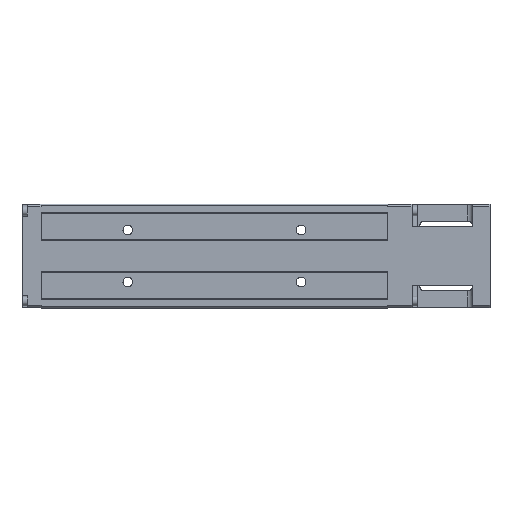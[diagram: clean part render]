
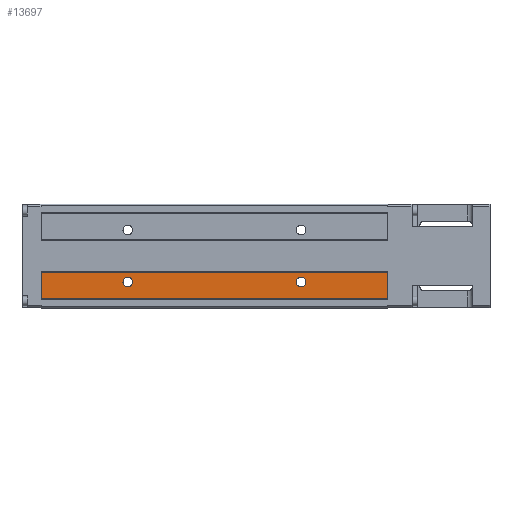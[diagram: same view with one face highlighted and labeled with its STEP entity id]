
A CAD part, front view. The second image highlights one B-rep face of the part: STEP entity #13697.
In plain terms, the highlighted planar face has unit normal (0, -1, 0).
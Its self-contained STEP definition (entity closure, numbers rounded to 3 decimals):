
#86 = ORIENTED_EDGE ( 'NONE', *, *, #14830, .T. ) ;
#798 = CARTESIAN_POINT ( 'NONE',  ( -150., -23., -12.25 ) ) ;
#942 = CIRCLE ( 'NONE', #1834, 2.75 ) ;
#1168 = LINE ( 'NONE', #12197, #15346 ) ;
#1222 = CARTESIAN_POINT ( 'NONE',  ( -100., -23., -12.25 ) ) ;
#1275 = EDGE_CURVE ( 'NONE', #6162, #5347, #1910, .T. ) ;
#1570 = LINE ( 'NONE', #11780, #13632 ) ;
#1647 = CIRCLE ( 'NONE', #9141, 2.75 ) ;
#1762 = ORIENTED_EDGE ( 'NONE', *, *, #6735, .T. ) ;
#1834 = AXIS2_PLACEMENT_3D ( 'NONE', #3439, #12041, #12154 ) ;
#1910 = LINE ( 'NONE', #798, #10873 ) ;
#1989 = CARTESIAN_POINT ( 'NONE',  ( -100., -23., -15. ) ) ;
#2052 = DIRECTION ( 'NONE',  ( -1., 0., 0. ) ) ;
#2138 = DIRECTION ( 'NONE',  ( 0., 1., 0. ) ) ;
#2589 = CARTESIAN_POINT ( 'NONE',  ( -100., -23., -9.5 ) ) ;
#2612 = DIRECTION ( 'NONE',  ( 0., 0., 1. ) ) ;
#2742 = CARTESIAN_POINT ( 'NONE',  ( 0., -23., -17.75 ) ) ;
#2982 = VERTEX_POINT ( 'NONE', #13718 ) ;
#3013 = EDGE_CURVE ( 'NONE', #5347, #7904, #7031, .T. ) ;
#3037 = ORIENTED_EDGE ( 'NONE', *, *, #1275, .F. ) ;
#3439 = CARTESIAN_POINT ( 'NONE',  ( -100., -23., -15. ) ) ;
#3474 = FACE_OUTER_BOUND ( 'NONE', #7318, .T. ) ;
#3868 = EDGE_CURVE ( 'NONE', #15124, #10919, #1647, .T. ) ;
#4284 = ORIENTED_EDGE ( 'NONE', *, *, #4737, .T. ) ;
#4574 = PLANE ( 'NONE',  #7855 ) ;
#4737 = EDGE_CURVE ( 'NONE', #13242, #7323, #6775, .T. ) ;
#4822 = FACE_BOUND ( 'NONE', #6055, .T. ) ;
#4934 = DIRECTION ( 'NONE',  ( 1., 0., 0. ) ) ;
#4956 = ORIENTED_EDGE ( 'NONE', *, *, #3013, .F. ) ;
#5347 = VERTEX_POINT ( 'NONE', #10435 ) ;
#5717 = DIRECTION ( 'NONE',  ( 0., 0., -1. ) ) ;
#5987 = EDGE_CURVE ( 'NONE', #2982, #7904, #1570, .T. ) ;
#6055 = EDGE_LOOP ( 'NONE', ( #86, #13865 ) ) ;
#6162 = VERTEX_POINT ( 'NONE', #10966 ) ;
#6335 = DIRECTION ( 'NONE',  ( 1., 0., 0. ) ) ;
#6735 = EDGE_CURVE ( 'NONE', #6162, #2982, #1168, .T. ) ;
#6775 = CIRCLE ( 'NONE', #13696, 2.75 ) ;
#6860 = DIRECTION ( 'NONE',  ( 0., -1., 0. ) ) ;
#6909 = CARTESIAN_POINT ( 'NONE',  ( 50., -23., -9.5 ) ) ;
#7031 = LINE ( 'NONE', #2589, #10824 ) ;
#7210 = CARTESIAN_POINT ( 'NONE',  ( 0., -23., -15. ) ) ;
#7318 = EDGE_LOOP ( 'NONE', ( #3037, #1762, #7427, #4956 ) ) ;
#7323 = VERTEX_POINT ( 'NONE', #1222 ) ;
#7427 = ORIENTED_EDGE ( 'NONE', *, *, #5987, .T. ) ;
#7855 = AXIS2_PLACEMENT_3D ( 'NONE', #9492, #6860, #2052 ) ;
#7904 = VERTEX_POINT ( 'NONE', #6909 ) ;
#8377 = DIRECTION ( 'NONE',  ( 0., 0., -1. ) ) ;
#8883 = CARTESIAN_POINT ( 'NONE',  ( 0., -23., -12.25 ) ) ;
#9141 = AXIS2_PLACEMENT_3D ( 'NONE', #7210, #2138, #8377 ) ;
#9492 = CARTESIAN_POINT ( 'NONE',  ( 50., -23., -24.5 ) ) ;
#9894 = AXIS2_PLACEMENT_3D ( 'NONE', #14172, #15404, #15357 ) ;
#10435 = CARTESIAN_POINT ( 'NONE',  ( -150., -23., -9.5 ) ) ;
#10824 = VECTOR ( 'NONE', #6335, 1000. ) ;
#10873 = VECTOR ( 'NONE', #2612, 1000. ) ;
#10919 = VERTEX_POINT ( 'NONE', #2742 ) ;
#10966 = CARTESIAN_POINT ( 'NONE',  ( -150., -23., -24.5 ) ) ;
#11780 = CARTESIAN_POINT ( 'NONE',  ( 50., -23., -24.5 ) ) ;
#12041 = DIRECTION ( 'NONE',  ( 0., 1., 0. ) ) ;
#12154 = DIRECTION ( 'NONE',  ( 0., 0., -1. ) ) ;
#12197 = CARTESIAN_POINT ( 'NONE',  ( -100., -23., -24.5 ) ) ;
#12842 = FACE_BOUND ( 'NONE', #13906, .T. ) ;
#12886 = DIRECTION ( 'NONE',  ( 0., 1., 0. ) ) ;
#13242 = VERTEX_POINT ( 'NONE', #14880 ) ;
#13632 = VECTOR ( 'NONE', #14439, 1000. ) ;
#13696 = AXIS2_PLACEMENT_3D ( 'NONE', #1989, #12886, #5717 ) ;
#13697 = ADVANCED_FACE ( 'NONE', ( #3474, #12842, #4822 ), #4574, .T. ) ;
#13718 = CARTESIAN_POINT ( 'NONE',  ( 50., -23., -24.5 ) ) ;
#13865 = ORIENTED_EDGE ( 'NONE', *, *, #3868, .T. ) ;
#13906 = EDGE_LOOP ( 'NONE', ( #4284, #14459 ) ) ;
#14172 = CARTESIAN_POINT ( 'NONE',  ( 0., -23., -15. ) ) ;
#14439 = DIRECTION ( 'NONE',  ( 0., 0., 1. ) ) ;
#14459 = ORIENTED_EDGE ( 'NONE', *, *, #15511, .T. ) ;
#14830 = EDGE_CURVE ( 'NONE', #10919, #15124, #15737, .T. ) ;
#14880 = CARTESIAN_POINT ( 'NONE',  ( -100., -23., -17.75 ) ) ;
#15124 = VERTEX_POINT ( 'NONE', #8883 ) ;
#15346 = VECTOR ( 'NONE', #4934, 1000. ) ;
#15357 = DIRECTION ( 'NONE',  ( 0., 0., -1. ) ) ;
#15404 = DIRECTION ( 'NONE',  ( 0., 1., 0. ) ) ;
#15511 = EDGE_CURVE ( 'NONE', #7323, #13242, #942, .T. ) ;
#15737 = CIRCLE ( 'NONE', #9894, 2.75 ) ;
